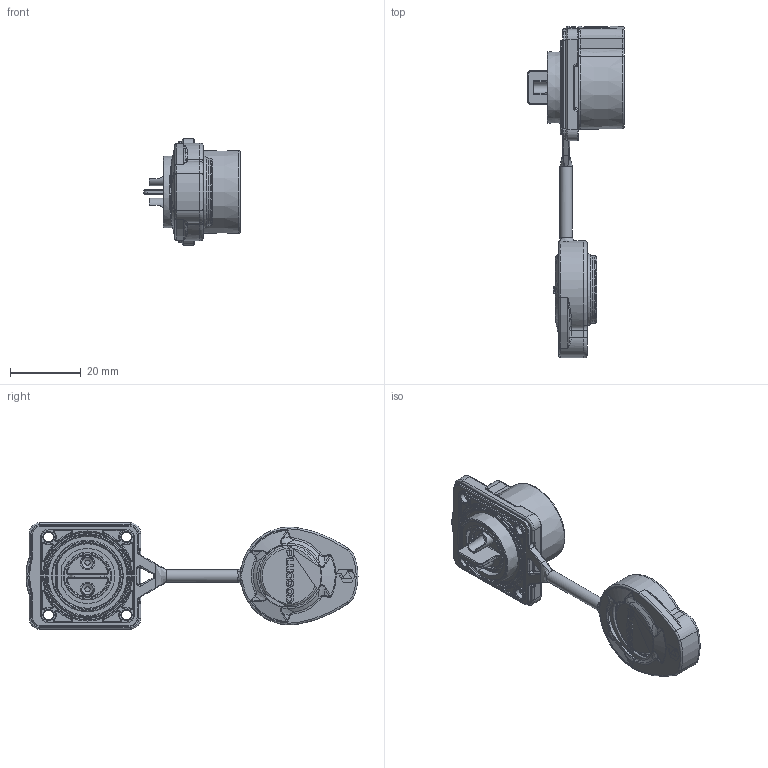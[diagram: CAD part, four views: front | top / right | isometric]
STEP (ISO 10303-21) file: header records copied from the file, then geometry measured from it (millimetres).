
FILE_DESCRIPTION (( 'STEP AP203' ), '1' );
FILE_NAME ('PLG20 2郋侐謂脣釱.STEP', '2025-03-20T00:39:52', ( '' ), ( '' ), 'SwSTEP 2.0', 'SolidWorks 2024', '' );
FILE_SCHEMA (( 'CONFIG_CONTROL_DESIGN' ));
Length unit declared in the file: millimetre
Products named in the file (1): PLG20 2芯四孔插座
Bounding box: 27.2 x 93.64 x 30 mm (x, y, z)
Volume: 12301.5 mm3; surface area: 11092.6 mm2
Topology: 1 solids, 9 shells, 1219 faces, 3008 edges, 1838 vertices
Faces by surface type: cylinder 355, plane 331, bspline 230, torus 226, cone 65, sphere 12
Full cylindrical faces by diameter (mm): 1.061 x1, 2.088 x1, 2.8 x4, 3.2 x2, 3.3 x6, 3.5 x1, 4 x2, 4.5 x2, 4.65 x2, 6 x4, 13.5 x1, 16.5 x1, 19.1 x1, 19.5 x3, 22.3 x1, 23.5 x1, 25 x1
Entity records: 41438 total; most frequent: CARTESIAN_POINT 14741, ORIENTED_EDGE 5776, DIRECTION 5202, EDGE_CURVE 2888, AXIS2_PLACEMENT_3D 2087, VERTEX_POINT 1810, EDGE_LOOP 1358, FACE_OUTER_BOUND 1274
